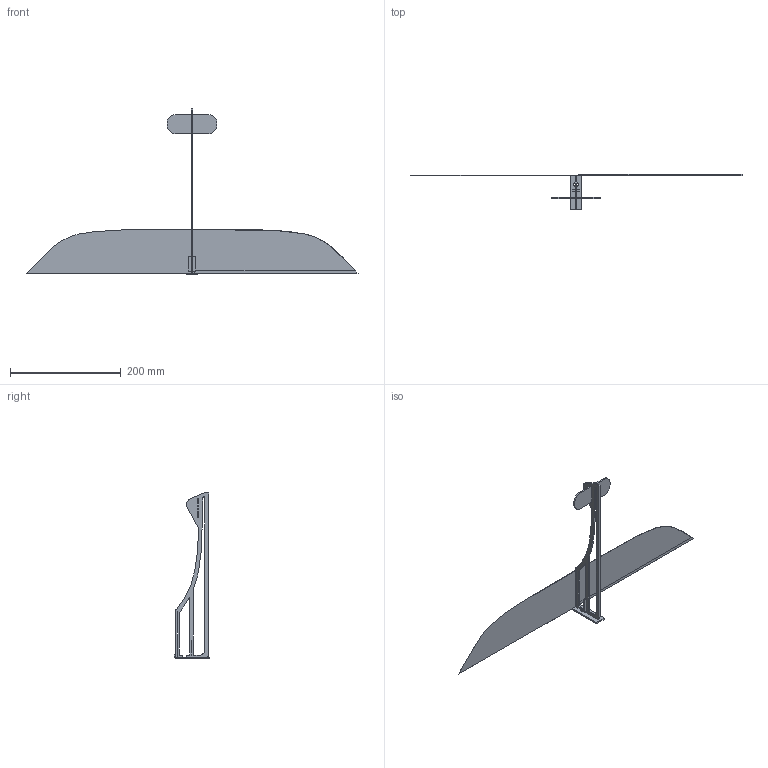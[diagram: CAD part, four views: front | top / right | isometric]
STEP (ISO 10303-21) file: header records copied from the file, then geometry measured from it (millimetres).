
FILE_DESCRIPTION(/* description */ (''),/* implementation_level */ '2;1');
FILE_NAME(/* name */ 'ornithopter1.step',/* time_stamp */ '2023-04-02T15:47:17+02:00',/* author */ (''),/* organization */ (''),/* preprocessor_version */ 'ST-DEVELOPER v19.2',/* originating_system */ 'Autodesk Translation Framework v11.17.0.187',/* authorisation */ '');
FILE_SCHEMA (('AUTOMOTIVE_DESIGN { 1 0 10303 214 3 1 1 }'));
Length unit declared in the file: millimetre
Products named in the file (1): ornithopter
Bounding box: 600 x 64.8 x 300 mm (x, y, z)
Volume: 36776.9 mm3; surface area: 112150 mm2
Topology: 6 solids, 6 shells, 78 faces, 202 edges, 136 vertices
Faces by surface type: plane 59, cylinder 12, bspline 7
Full cylindrical faces by diameter (mm): 8 x1
Entity records: 2520 total; most frequent: CARTESIAN_POINT 604, ORIENTED_EDGE 404, DIRECTION 352, EDGE_CURVE 202, LINE 160, VECTOR 160, VERTEX_POINT 136, AXIS2_PLACEMENT_3D 96
